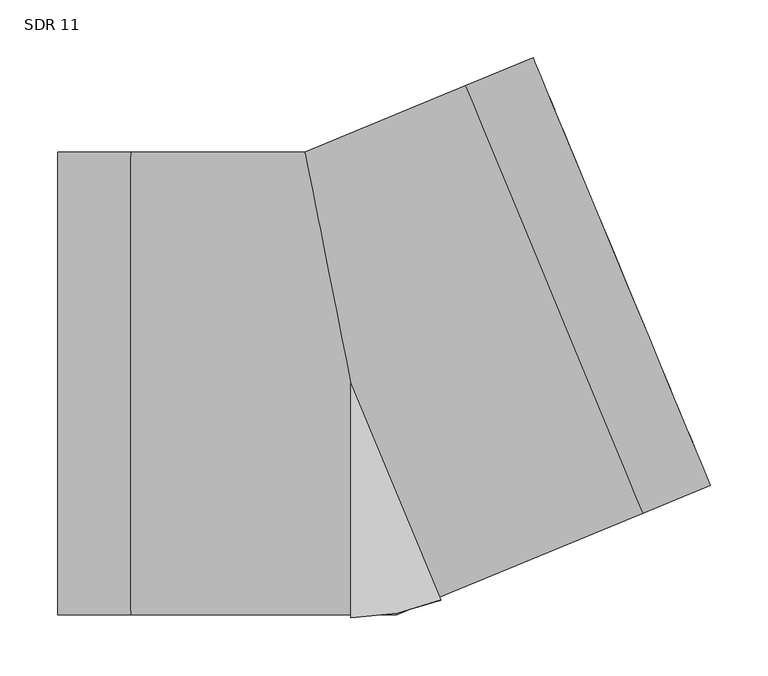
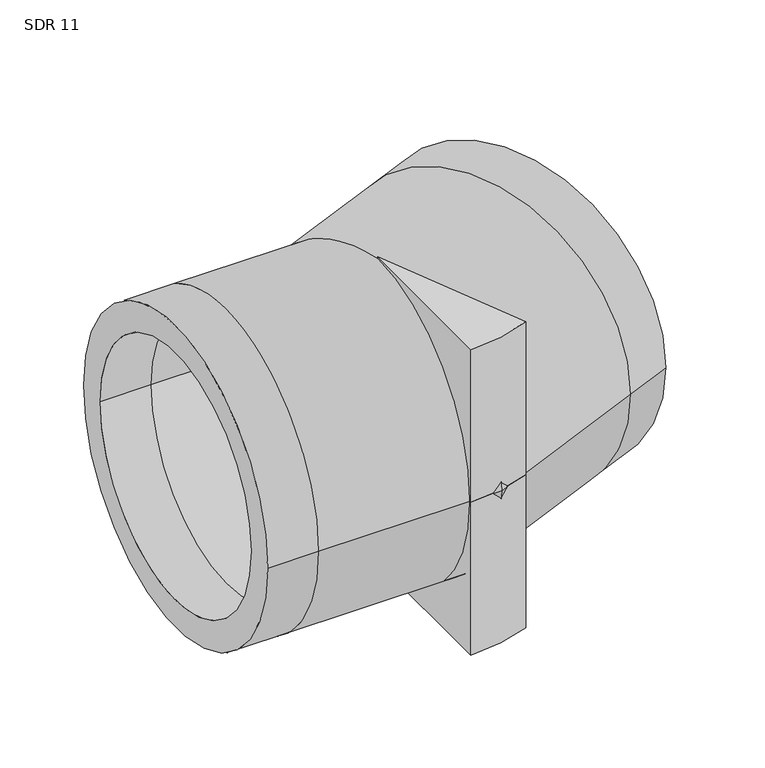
"""IFC4 building model written with IfcOpenShell, lengths in millimetres: pipe fitting geometry, Aquatherm - Elbow Blue BW Segmented : SDR 11."""

from ifc_helpers import new_model, si_unit, point, frame, origin, origin_with_axes, origin_2d, place, context, project, spatial, polyline, circle_curve, ellipse_curve, trimmed, segment, composite_curve, outline, extrude, source, transform, mapped, element, save
from ifc_brep_helpers import plane_surface, cylinder_surface, revolved_surface, advanced_brep


def sdr_11_c61c4b71(model_context):
    return source(origin(), model_context, "Body", "SolidModel", [
        extrude(outline(composite_curve([segment(polyline([(0.0, -203.2), (0.0, 0.0), (77.7612735, -187.732321)]), True, "CONTINUOUS"), segment(trimmed(circle_curve(origin_2d(), 203.2), [point((77.7612735, -187.732321))], [point((0.0, -203.2))], False, "CARTESIAN"), True, "CONTINUOUS")], self_intersect=False)), frame((0.0, 0.0, -203.2), z_axis=(0.0, 0.0, 1.0), x_axis=(1.0, 0.0, 0.0)), (0.0, 0.0, 1.0), 203.2),
        extrude(outline(composite_curve([segment(trimmed(circle_curve(origin_2d(), 203.2), [point((77.7612735, -187.732321))], [point((0.0, -203.2))], False, "CARTESIAN"), True, "CONTINUOUS"), segment(polyline([(0.0, -203.2), (0.0, 0.0), (77.7612735, -187.732321)]), True, "CONTINUOUS")], self_intersect=False)), origin_with_axes(), (0.0, 0.0, 1.0), 203.2),
        advanced_brep(
        [(-254.0, -200.66, 0.0), (-254.0, 200.66, 0.0), (-254.0, -164.1763636, 0.0), (-254.0, 164.1763636, 0.0), (311.4546588, -88.1840752, 0.0), (157.8761437, 282.5872588, 0.0), (297.4929756, -54.4775903, 0.0), (171.8378269, 248.8807739, 0.0), (-190.5, -200.66, 0.0), (-190.5, 200.66, 0.0), (-190.5, -164.1763636, 0.0), (-190.5, 164.1763636, 0.0), (39.9137556, -200.66, 0.0), (-39.9137556, 200.66, 0.0), (32.6567092, -164.1763636, 0.0), (-32.6567092, 164.1763636, 0.0), (252.7883085, -112.4844731, 0.0), (99.2097934, 258.2868609, 0.0), (238.8266253, -78.7779882, 0.0), (113.1714766, 224.580376, 0.0)],
        [
            (0, 1, circle_curve(frame((-254.0, 0.0, 0.0), z_axis=(-1.0, 0.0, 0.0), x_axis=(0.0, 1.0, 0.0)), 200.66)),
            (1, 0, circle_curve(frame((-254.0, 0.0, 0.0), z_axis=(-1.0, 0.0, 0.0), x_axis=(0.0, 1.0, 0.0)), 200.66)),
            (2, 3, circle_curve(frame((-254.0, 0.0, 0.0), z_axis=(1.0, 0.0, 0.0), x_axis=(0.0, 1.0, 0.0)), 164.1763636)),
            (3, 2, circle_curve(frame((-254.0, 0.0, 0.0), z_axis=(1.0, 0.0, 0.0), x_axis=(0.0, 1.0, 0.0)), 164.1763636)),
            (4, 5, circle_curve(frame((234.6654013, 97.2015918, 0.0), z_axis=(0.923879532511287, 0.3826834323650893, 0.0), x_axis=(-0.3826834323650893, 0.923879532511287, 0.0)), 200.66)),
            (5, 4, circle_curve(frame((234.6654013, 97.2015918, 0.0), z_axis=(0.923879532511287, 0.3826834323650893, 0.0), x_axis=(-0.3826834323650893, 0.923879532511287, 0.0)), 200.66)),
            (6, 7, circle_curve(frame((234.6654013, 97.2015918, 0.0), z_axis=(-0.923879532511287, -0.3826834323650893, 0.0), x_axis=(-0.3826834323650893, 0.923879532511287, 0.0)), 164.1763636)),
            (7, 6, circle_curve(frame((234.6654013, 97.2015918, 0.0), z_axis=(-0.923879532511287, -0.3826834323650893, 0.0), x_axis=(-0.3826834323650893, 0.923879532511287, 0.0)), 164.1763636)),
            (0, 8),
            (8, 9, circle_curve(frame((-190.5, 0.0, 0.0), z_axis=(-1.0, 0.0, 0.0), x_axis=(0.0, 1.0, 0.0)), 200.66)),
            (9, 1),
            (9, 8, circle_curve(frame((-190.5, 0.0, 0.0), z_axis=(-1.0, 0.0, 0.0), x_axis=(0.0, 1.0, 0.0)), 200.66)),
            (2, 10),
            (10, 11, circle_curve(frame((-190.5, 0.0, 0.0), z_axis=(1.0, 0.0, 0.0), x_axis=(0.0, 1.0, 0.0)), 164.1763636)),
            (11, 3),
            (11, 10, circle_curve(frame((-190.5, 0.0, 0.0), z_axis=(1.0, 0.0, 0.0), x_axis=(0.0, 1.0, 0.0)), 164.1763636)),
            (8, 12),
            (12, 13, ellipse_curve(frame((0.0, 0.0, 0.0), z_axis=(-0.9807852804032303, -0.19509032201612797, 0.0), x_axis=(-0.19509032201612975, 0.9807852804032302, 0.0)), 204.5911618, 200.66)),
            (13, 9),
            (13, 12, ellipse_curve(frame((0.0, 0.0, 0.0), z_axis=(-0.9807852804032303, -0.19509032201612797, 0.0), x_axis=(-0.19509032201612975, 0.9807852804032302, 0.0)), 204.5911618, 200.66)),
            (10, 14),
            (14, 15, ellipse_curve(frame((0.0, 0.0, 0.0), z_axis=(0.9807852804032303, 0.19509032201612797, 0.0), x_axis=(0.19509032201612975, -0.9807852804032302, 0.0)), 167.3927688, 164.1763636)),
            (15, 11),
            (15, 14, ellipse_curve(frame((0.0, 0.0, 0.0), z_axis=(0.9807852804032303, 0.19509032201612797, 0.0), x_axis=(0.19509032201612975, -0.9807852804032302, 0.0)), 167.3927688, 164.1763636)),
            (12, 16),
            (16, 17, circle_curve(frame((175.9990509, 72.9011939, 0.0), z_axis=(-0.923879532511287, -0.3826834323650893, 0.0), x_axis=(-0.3826834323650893, 0.923879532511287, 0.0)), 200.66)),
            (17, 13),
            (17, 16, circle_curve(frame((175.9990509, 72.9011939, 0.0), z_axis=(-0.923879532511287, -0.3826834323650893, 0.0), x_axis=(-0.3826834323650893, 0.923879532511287, 0.0)), 200.66)),
            (14, 18),
            (18, 19, circle_curve(frame((175.9990509, 72.9011939, 0.0), z_axis=(0.923879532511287, 0.3826834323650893, 0.0), x_axis=(-0.3826834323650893, 0.923879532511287, 0.0)), 164.1763636)),
            (19, 15),
            (19, 18, circle_curve(frame((175.9990509, 72.9011939, 0.0), z_axis=(0.923879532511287, 0.3826834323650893, 0.0), x_axis=(-0.3826834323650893, 0.923879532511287, 0.0)), 164.1763636)),
            (16, 4),
            (5, 17),
            (18, 6),
            (7, 19),
        ],
        [
            plane_surface(frame((-254.0, 0.0, 0.0), z_axis=(-1.0, 0.0, 0.0), x_axis=(0.0, 0.0, 1.0))),
            plane_surface(frame((234.6654013, 97.2015918, 0.0), z_axis=(0.923879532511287, 0.3826834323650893, 0.0), x_axis=(0.0, 0.0, 1.0))),
            cylinder_surface(frame((-254.0, 0.0, 0.0), z_axis=(-1.0, 0.0, 0.0), x_axis=(0.0, 1.0, 0.0)), 200.66),
            revolved_surface(polyline([(-190.5, 164.1763636, 0.0), (-254.0, 164.1763636, 0.0)]), (-254.0, 0.0, 0.0), (1.0, 0.0, 0.0)),
            cylinder_surface(frame((-190.5, 0.0, 0.0), z_axis=(-1.0, 0.0, 0.0), x_axis=(0.0, 1.0, 0.0)), 200.66),
            revolved_surface(polyline([(32.656709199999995, 164.1763636, 0.0), (-190.5, 164.1763636, 0.0)]), (-190.5, 0.0, 0.0), (1.0, 0.0, 0.0)),
            cylinder_surface(frame((0.0, 0.0, 0.0), z_axis=(-0.923879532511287, -0.3826834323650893, 0.0), x_axis=(-0.3826834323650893, 0.923879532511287, 0.0)), 200.66),
            revolved_surface(polyline([(113.1714766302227, 224.58037592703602, 0.0), (-92.99843953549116, 139.18200049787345, 0.0)]), (0.0, 0.0, 0.0), (0.923879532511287, 0.3826834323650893, 0.0)),
            cylinder_surface(frame((175.9990509, 72.9011939, 0.0), z_axis=(-0.923879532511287, -0.3826834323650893, 0.0), x_axis=(-0.3826834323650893, 0.923879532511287, 0.0)), 200.66),
            revolved_surface(polyline([(171.83782693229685, 248.88077392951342, 0.0), (113.17147656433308, 224.58037595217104, 0.0)]), (175.9990509, 72.9011939, 0.0), (0.923879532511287, 0.3826834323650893, 0.0)),
        ],
        [
            (0, [[1, 2], [3, 4]]),
            (1, [[5, 6], [7, 8]]),
            (2, [[-1, 9, 10, 11]]),
            (2, [[-2, -11, 12, -9]]),
            (3, [[-3, 13, 14, 15]]),
            (3, [[-4, -15, 16, -13]]),
            (4, [[-10, 17, 18, 19]]),
            (4, [[-12, -19, 20, -17]]),
            (5, [[-14, 21, 22, 23]]),
            (5, [[-16, -23, 24, -21]]),
            (6, [[-18, 25, 26, 27]]),
            (6, [[-20, -27, 28, -25]]),
            (7, [[-22, 29, 30, 31]]),
            (7, [[-24, -31, 32, -29]]),
            (8, [[-26, 33, -6, 34]]),
            (8, [[-28, -34, -5, -33]]),
            (9, [[-30, 35, -8, 36]]),
            (9, [[-32, -36, -7, -35]]),
        ],
    ),
    ])


if __name__ == "__main__":
    model = new_model("IFC4")
    model_context = context("Model", 3, world=origin())
    ifc_project = project(units=[si_unit("LENGTHUNIT", "METRE", prefix="MILLI")], contexts=[model_context])
    site = spatial("IfcSite", under=ifc_project)
    building = spatial("IfcBuilding", under=site)
    placement = place(None, origin())
    sdr_11_shape = sdr_11_c61c4b71(model_context)
    element("IfcPipeFitting", 1, ObjectType="Aquatherm - Elbow Blue BW Segmented : SDR 11", at=placement, inside=building, context=model_context, shape_type="MappedRepresentation", body=[
        mapped(sdr_11_shape, transform((0.0, 0.0, 0.0), x_axis=(1.0, 0.0, 0.0), y_axis=(0.0, 1.0, 0.0), z_axis=(0.0, 0.0, 1.0))),
    ])
    save(model, "model.ifc")
